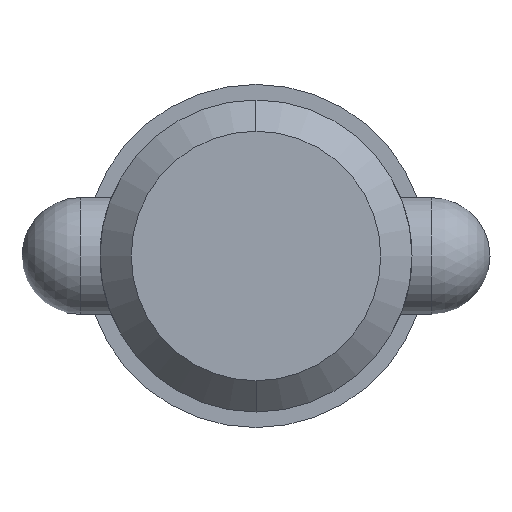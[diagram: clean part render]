
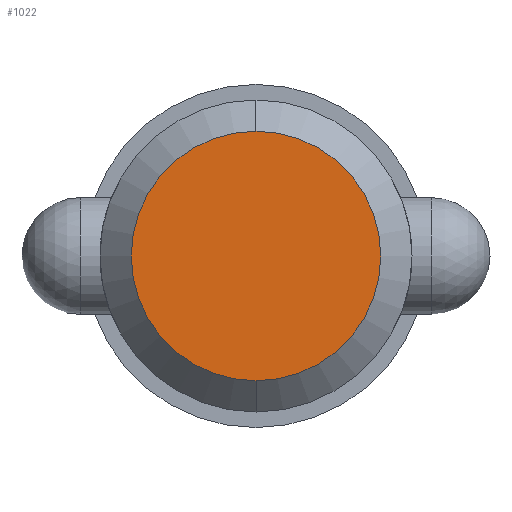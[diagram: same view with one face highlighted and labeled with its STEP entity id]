
A CAD part, left-side view. The second image highlights one B-rep face of the part: STEP entity #1022.
In plain terms, the highlighted planar face has unit normal (-1, 0, 0).
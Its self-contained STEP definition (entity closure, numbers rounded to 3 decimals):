
#38 = AXIS2_PLACEMENT_3D ( 'NONE', #999, #743, #1003 ) ;
#131 = EDGE_CURVE ( 'NONE', #521, #670, #878, .T. ) ;
#209 = AXIS2_PLACEMENT_3D ( 'NONE', #575, #589, #333 ) ;
#218 = ORIENTED_EDGE ( 'NONE', *, *, #131, .F. ) ;
#225 = AXIS2_PLACEMENT_3D ( 'NONE', #451, #261, #349 ) ;
#243 = CARTESIAN_POINT ( 'NONE',  ( 0., 0., -10.16 ) ) ;
#261 = DIRECTION ( 'NONE',  ( 1., 0., 0. ) ) ;
#333 = DIRECTION ( 'NONE',  ( 0., 0., 1. ) ) ;
#349 = DIRECTION ( 'NONE',  ( 0., 0., -1. ) ) ;
#408 = CARTESIAN_POINT ( 'NONE',  ( 0., 0., 10.16 ) ) ;
#451 = CARTESIAN_POINT ( 'NONE',  ( 0., 0., 0. ) ) ;
#521 = VERTEX_POINT ( 'NONE', #408 ) ;
#534 = ORIENTED_EDGE ( 'NONE', *, *, #691, .F. ) ;
#575 = CARTESIAN_POINT ( 'NONE',  ( 0., 0., 0. ) ) ;
#589 = DIRECTION ( 'NONE',  ( -1., 0., 0. ) ) ;
#660 = PLANE ( 'NONE',  #209 ) ;
#670 = VERTEX_POINT ( 'NONE', #243 ) ;
#691 = EDGE_CURVE ( 'NONE', #670, #521, #706, .T. ) ;
#706 = CIRCLE ( 'NONE', #38, 10.16 ) ;
#707 = EDGE_LOOP ( 'NONE', ( #534, #218 ) ) ;
#743 = DIRECTION ( 'NONE',  ( 1., 0., 0. ) ) ;
#751 = FACE_OUTER_BOUND ( 'NONE', #707, .T. ) ;
#878 = CIRCLE ( 'NONE', #225, 10.16 ) ;
#999 = CARTESIAN_POINT ( 'NONE',  ( 0., 0., 0. ) ) ;
#1003 = DIRECTION ( 'NONE',  ( 0., 0., -1. ) ) ;
#1022 = ADVANCED_FACE ( 'NONE', ( #751 ), #660, .T. ) ;
